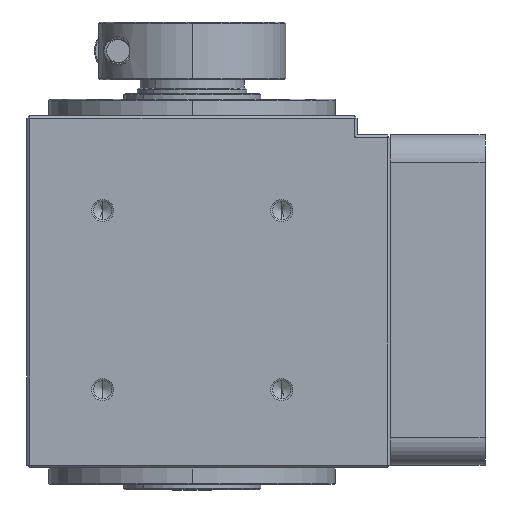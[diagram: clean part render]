
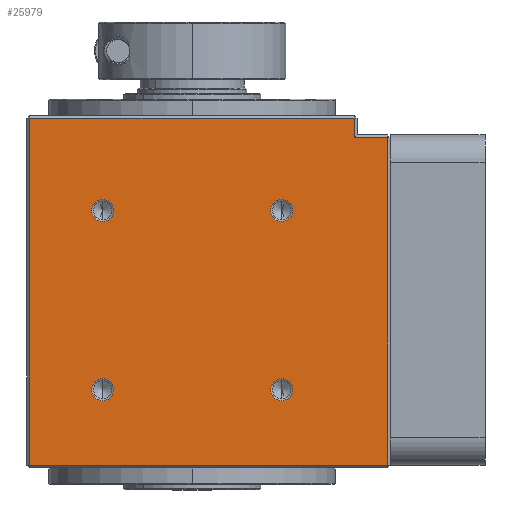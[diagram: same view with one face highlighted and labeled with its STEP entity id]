
A CAD part, left-side view. The second image highlights one B-rep face of the part: STEP entity #25979.
In plain terms, the highlighted planar face has unit normal (-1, 0, 0) as drawn and (1, 0, 0) by its records, which use the part's own axes.
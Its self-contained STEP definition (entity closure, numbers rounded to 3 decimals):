
#322 = DIRECTION ( 'NONE',  ( 1., 0., 0. ) ) ;
#345 = CARTESIAN_POINT ( 'NONE',  ( 30., -16.263, 54.763 ) ) ;
#1168 = ORIENTED_EDGE ( 'NONE', *, *, #21210, .T. ) ;
#1196 = AXIS2_PLACEMENT_3D ( 'NONE', #14913, #26913, #36518 ) ;
#1284 = ORIENTED_EDGE ( 'NONE', *, *, #23184, .F. ) ;
#1623 = CARTESIAN_POINT ( 'NONE',  ( 30., 16.263, 50.763 ) ) ;
#1869 = DIRECTION ( 'NONE',  ( 1., 0., 0. ) ) ;
#2077 = PLANE ( 'NONE',  #29224 ) ;
#2428 = VERTEX_POINT ( 'NONE', #1623 ) ;
#2501 = FACE_BOUND ( 'NONE', #12953, .T. ) ;
#2806 = AXIS2_PLACEMENT_3D ( 'NONE', #39564, #36473, #26738 ) ;
#2842 = CARTESIAN_POINT ( 'NONE',  ( 30., 30., 3.5 ) ) ;
#2961 = CIRCLE ( 'NONE', #6822, 2. ) ;
#2970 = CIRCLE ( 'NONE', #25953, 2. ) ;
#3117 = AXIS2_PLACEMENT_3D ( 'NONE', #5822, #24440, #9066 ) ;
#3395 = CARTESIAN_POINT ( 'NONE',  ( 30., -16.263, 52.763 ) ) ;
#3781 = EDGE_CURVE ( 'NONE', #6161, #35705, #22906, .T. ) ;
#5235 = DIRECTION ( 'NONE',  ( 0., 0., -1. ) ) ;
#5459 = CARTESIAN_POINT ( 'NONE',  ( 30., -30., 70. ) ) ;
#5746 = CARTESIAN_POINT ( 'NONE',  ( 30., -29.5, 7. ) ) ;
#5822 = CARTESIAN_POINT ( 'NONE',  ( 30., 16.263, 52.763 ) ) ;
#5860 = ORIENTED_EDGE ( 'NONE', *, *, #7984, .F. ) ;
#6022 = DIRECTION ( 'NONE',  ( 0., 0., -1. ) ) ;
#6161 = VERTEX_POINT ( 'NONE', #27475 ) ;
#6176 = CARTESIAN_POINT ( 'NONE',  ( 30., -30., 7. ) ) ;
#6504 = VECTOR ( 'NONE', #21349, 1000. ) ;
#6822 = AXIS2_PLACEMENT_3D ( 'NONE', #23351, #1869, #7841 ) ;
#6917 = FACE_OUTER_BOUND ( 'NONE', #19757, .T. ) ;
#7439 = FACE_BOUND ( 'NONE', #20260, .T. ) ;
#7605 = VERTEX_POINT ( 'NONE', #19548 ) ;
#7841 = DIRECTION ( 'NONE',  ( 0., 0., -1. ) ) ;
#7984 = EDGE_CURVE ( 'NONE', #17454, #7605, #12241, .T. ) ;
#8370 = LINE ( 'NONE', #21127, #13133 ) ;
#9066 = DIRECTION ( 'NONE',  ( 0., 0., -1. ) ) ;
#9314 = CARTESIAN_POINT ( 'NONE',  ( 30., 16.263, 18.237 ) ) ;
#9800 = EDGE_CURVE ( 'NONE', #13738, #33549, #2961, .T. ) ;
#9925 = DIRECTION ( 'NONE',  ( 0., 0., -1. ) ) ;
#9941 = VERTEX_POINT ( 'NONE', #18634 ) ;
#10337 = CARTESIAN_POINT ( 'NONE',  ( 30., -16.263, 22.237 ) ) ;
#10445 = ORIENTED_EDGE ( 'NONE', *, *, #28747, .T. ) ;
#10946 = AXIS2_PLACEMENT_3D ( 'NONE', #17545, #39110, #5235 ) ;
#11465 = ORIENTED_EDGE ( 'NONE', *, *, #29430, .F. ) ;
#11806 = DIRECTION ( 'NONE',  ( -1., 0., 0. ) ) ;
#12102 = EDGE_LOOP ( 'NONE', ( #31930, #28187 ) ) ;
#12241 = CIRCLE ( 'NONE', #10946, 2. ) ;
#12891 = AXIS2_PLACEMENT_3D ( 'NONE', #30690, #30566, #6022 ) ;
#12953 = EDGE_LOOP ( 'NONE', ( #28356, #5860 ) ) ;
#13133 = VECTOR ( 'NONE', #30427, 1000. ) ;
#13738 = VERTEX_POINT ( 'NONE', #345 ) ;
#14913 = CARTESIAN_POINT ( 'NONE',  ( 30., 16.263, 20.237 ) ) ;
#14987 = CARTESIAN_POINT ( 'NONE',  ( 30., 29.5, 66.5 ) ) ;
#15007 = VECTOR ( 'NONE', #29732, 1000. ) ;
#15544 = VERTEX_POINT ( 'NONE', #29590 ) ;
#16121 = DIRECTION ( 'NONE',  ( 1., 0., 0. ) ) ;
#17201 = LINE ( 'NONE', #6176, #27330 ) ;
#17297 = ORIENTED_EDGE ( 'NONE', *, *, #36044, .T. ) ;
#17454 = VERTEX_POINT ( 'NONE', #10337 ) ;
#17545 = CARTESIAN_POINT ( 'NONE',  ( 30., -16.263, 20.237 ) ) ;
#18537 = EDGE_CURVE ( 'NONE', #27078, #9941, #21603, .T. ) ;
#18634 = CARTESIAN_POINT ( 'NONE',  ( 30., 16.263, 22.237 ) ) ;
#18714 = CARTESIAN_POINT ( 'NONE',  ( 30., -35.5, 70. ) ) ;
#18726 = EDGE_CURVE ( 'NONE', #20994, #34674, #8370, .T. ) ;
#19350 = DIRECTION ( 'NONE',  ( 0., 0., -1. ) ) ;
#19548 = CARTESIAN_POINT ( 'NONE',  ( 30., -16.263, 18.237 ) ) ;
#19711 = VERTEX_POINT ( 'NONE', #35078 ) ;
#19757 = EDGE_LOOP ( 'NONE', ( #10445, #27227, #1168, #34885, #17297, #25468 ) ) ;
#20260 = EDGE_LOOP ( 'NONE', ( #26041, #39349 ) ) ;
#20521 = VECTOR ( 'NONE', #21241, 1000. ) ;
#20748 = EDGE_CURVE ( 'NONE', #15544, #37454, #36948, .T. ) ;
#20994 = VERTEX_POINT ( 'NONE', #5746 ) ;
#21127 = CARTESIAN_POINT ( 'NONE',  ( 30., -29.5, 70. ) ) ;
#21210 = EDGE_CURVE ( 'NONE', #34674, #15544, #21930, .T. ) ;
#21241 = DIRECTION ( 'NONE',  ( 0., 0., 1. ) ) ;
#21349 = DIRECTION ( 'NONE',  ( 0., 1., 0. ) ) ;
#21603 = CIRCLE ( 'NONE', #12891, 2. ) ;
#21930 = LINE ( 'NONE', #2842, #6504 ) ;
#22188 = CARTESIAN_POINT ( 'NONE',  ( 30., 16.263, 52.763 ) ) ;
#22573 = CIRCLE ( 'NONE', #2806, 2. ) ;
#22906 = LINE ( 'NONE', #18714, #34027 ) ;
#23184 = EDGE_CURVE ( 'NONE', #2428, #19711, #39270, .T. ) ;
#23351 = CARTESIAN_POINT ( 'NONE',  ( 30., -16.263, 52.763 ) ) ;
#24137 = DIRECTION ( 'NONE',  ( 0., 1., 0. ) ) ;
#24440 = DIRECTION ( 'NONE',  ( 1., 0., 0. ) ) ;
#25130 = CIRCLE ( 'NONE', #1196, 2. ) ;
#25468 = ORIENTED_EDGE ( 'NONE', *, *, #3781, .T. ) ;
#25794 = AXIS2_PLACEMENT_3D ( 'NONE', #22188, #322, #33964 ) ;
#25953 = AXIS2_PLACEMENT_3D ( 'NONE', #3395, #16121, #19350 ) ;
#25979 = ADVANCED_FACE ( 'NONE', ( #6917, #33879, #39743, #7439, #2501 ), #2077, .F. ) ;
#26041 = ORIENTED_EDGE ( 'NONE', *, *, #32525, .F. ) ;
#26564 = LINE ( 'NONE', #26614, #15007 ) ;
#26614 = CARTESIAN_POINT ( 'NONE',  ( 30., -36., 66.5 ) ) ;
#26637 = DIRECTION ( 'NONE',  ( 0., -1., 0. ) ) ;
#26738 = DIRECTION ( 'NONE',  ( 0., 0., -1. ) ) ;
#26913 = DIRECTION ( 'NONE',  ( 1., 0., 0. ) ) ;
#27078 = VERTEX_POINT ( 'NONE', #9314 ) ;
#27227 = ORIENTED_EDGE ( 'NONE', *, *, #18726, .T. ) ;
#27330 = VECTOR ( 'NONE', #24137, 1000. ) ;
#27475 = CARTESIAN_POINT ( 'NONE',  ( 30., -35.5, 66.5 ) ) ;
#28187 = ORIENTED_EDGE ( 'NONE', *, *, #35448, .F. ) ;
#28356 = ORIENTED_EDGE ( 'NONE', *, *, #38434, .F. ) ;
#28747 = EDGE_CURVE ( 'NONE', #35705, #20994, #17201, .T. ) ;
#29224 = AXIS2_PLACEMENT_3D ( 'NONE', #5459, #11806, #26637 ) ;
#29381 = EDGE_LOOP ( 'NONE', ( #1284, #11465 ) ) ;
#29430 = EDGE_CURVE ( 'NONE', #19711, #2428, #37935, .T. ) ;
#29548 = CARTESIAN_POINT ( 'NONE',  ( 30., -35.5, 7. ) ) ;
#29590 = CARTESIAN_POINT ( 'NONE',  ( 30., 29.5, 3.5 ) ) ;
#29732 = DIRECTION ( 'NONE',  ( 0., -1., 0. ) ) ;
#30427 = DIRECTION ( 'NONE',  ( 0., 0., -1. ) ) ;
#30566 = DIRECTION ( 'NONE',  ( 1., 0., 0. ) ) ;
#30690 = CARTESIAN_POINT ( 'NONE',  ( 30., 16.263, 20.237 ) ) ;
#31050 = CARTESIAN_POINT ( 'NONE',  ( 30., -16.263, 50.763 ) ) ;
#31930 = ORIENTED_EDGE ( 'NONE', *, *, #18537, .F. ) ;
#32525 = EDGE_CURVE ( 'NONE', #33549, #13738, #2970, .T. ) ;
#33549 = VERTEX_POINT ( 'NONE', #31050 ) ;
#33879 = FACE_BOUND ( 'NONE', #12102, .T. ) ;
#33963 = CARTESIAN_POINT ( 'NONE',  ( 30., -29.5, 3.5 ) ) ;
#33964 = DIRECTION ( 'NONE',  ( 0., 0., -1. ) ) ;
#34027 = VECTOR ( 'NONE', #9925, 1000. ) ;
#34674 = VERTEX_POINT ( 'NONE', #33963 ) ;
#34885 = ORIENTED_EDGE ( 'NONE', *, *, #20748, .T. ) ;
#35078 = CARTESIAN_POINT ( 'NONE',  ( 30., 16.263, 54.763 ) ) ;
#35448 = EDGE_CURVE ( 'NONE', #9941, #27078, #25130, .T. ) ;
#35705 = VERTEX_POINT ( 'NONE', #29548 ) ;
#36044 = EDGE_CURVE ( 'NONE', #37454, #6161, #26564, .T. ) ;
#36473 = DIRECTION ( 'NONE',  ( 1., 0., 0. ) ) ;
#36518 = DIRECTION ( 'NONE',  ( 0., 0., -1. ) ) ;
#36948 = LINE ( 'NONE', #39609, #20521 ) ;
#37454 = VERTEX_POINT ( 'NONE', #14987 ) ;
#37935 = CIRCLE ( 'NONE', #3117, 2. ) ;
#38434 = EDGE_CURVE ( 'NONE', #7605, #17454, #22573, .T. ) ;
#39110 = DIRECTION ( 'NONE',  ( 1., 0., 0. ) ) ;
#39270 = CIRCLE ( 'NONE', #25794, 2. ) ;
#39349 = ORIENTED_EDGE ( 'NONE', *, *, #9800, .F. ) ;
#39564 = CARTESIAN_POINT ( 'NONE',  ( 30., -16.263, 20.237 ) ) ;
#39609 = CARTESIAN_POINT ( 'NONE',  ( 30., 29.5, 70. ) ) ;
#39743 = FACE_BOUND ( 'NONE', #29381, .T. ) ;
